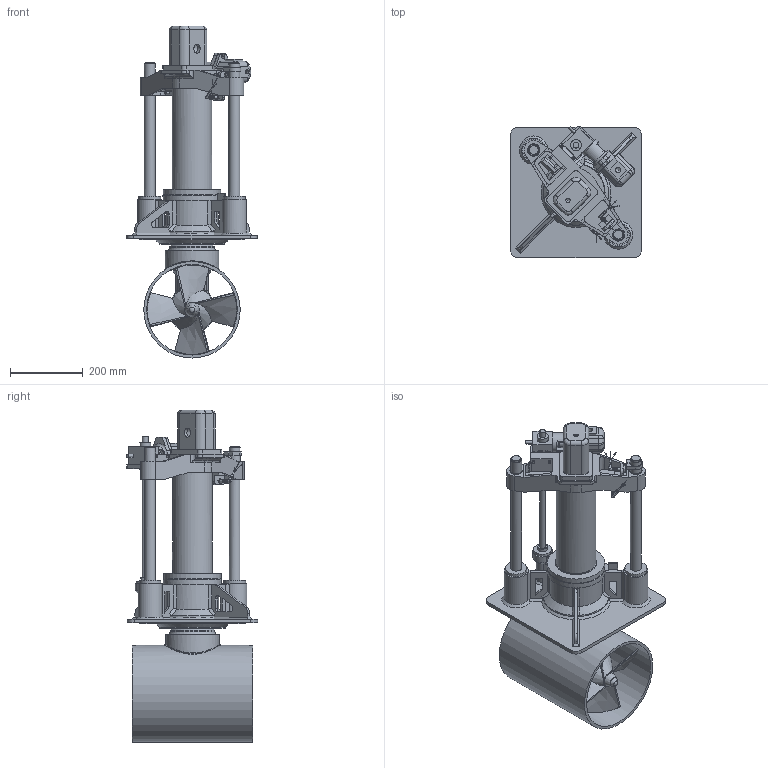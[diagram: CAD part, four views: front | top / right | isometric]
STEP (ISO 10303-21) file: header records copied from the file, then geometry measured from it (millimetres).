
FILE_DESCRIPTION(/* description */ (''),/* implementation_level */ '2;1');
FILE_NAME(/* name */ 'Q:\THRUSTERS\THRUSTER SALES & SUPPORT DOCS\THRUSTER Sales\H-V\H-0250-V\H-0250-V-RETRACTED.stp',/* time_stamp */ '2020-03-03T11:52:36+00:00',/* author */ ('charlotte.richardson'),/* organization */ (''),/* preprocessor_version */ 'ST-DEVELOPER v17',/* originating_system */ 'Autodesk Inventor 2019',/* authorisation */ '');
FILE_SCHEMA (('AUTOMOTIVE_DESIGN { 1 0 10303 214 3 1 1 }'));
Length unit declared in the file: millimetre
Products named in the file (1): H-0250-V_Shrinkwrap_1
Bounding box: 360 x 362.41 x 914.9 mm (x, y, z)
Volume: 11499804.8 mm3; surface area: 2241731.2 mm2
Topology: 7 solids, 7 shells, 2068 faces, 5660 edges, 3678 vertices
Faces by surface type: plane 1099, cylinder 721, cone 141, bspline 92, torus 11, sphere 4
Full cylindrical faces by diameter (mm): 1.15 x6, 1.35 x5, 1.8 x5, 2 x8, 3.386 x1, 3.4 x3, 3.7 x2, 4 x2, 6 x10, 6.4 x2, 8 x6, 9 x2, 10 x6, 10.3 x2, 11.445 x1, 11.8 x1, 12.7 x1, 14 x1, 14.95 x2, 15 x1, 16 x1, 16.2 x1, 20 x4, 24.5 x2, 25 x4, 26 x1, 29.58 x2, 30 x10, 31.75 x1, 34 x4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
Entity records: 80881 total; most frequent: CARTESIAN_POINT 26199, ORIENTED_EDGE 11288, DIRECTION 10777, EDGE_CURVE 5644, AXIS2_PLACEMENT_3D 3857, VERTEX_POINT 3678, LINE 3063, VECTOR 3063
